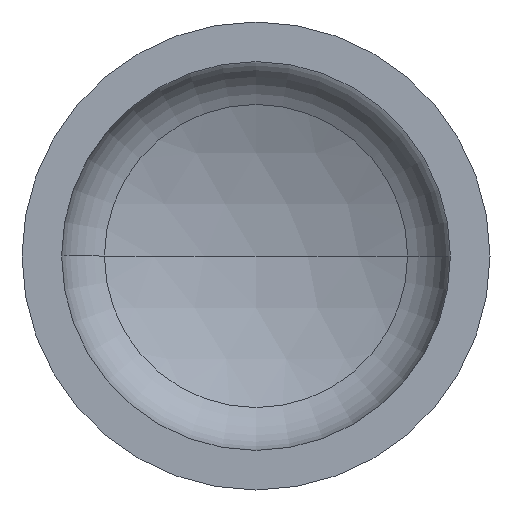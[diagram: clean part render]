
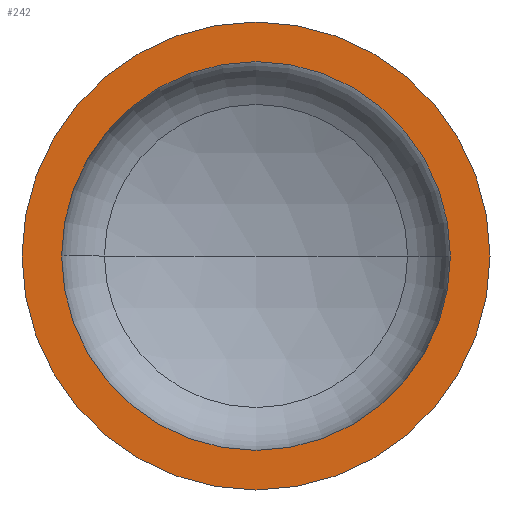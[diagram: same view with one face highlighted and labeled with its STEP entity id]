
A CAD part, front view. The second image highlights one B-rep face of the part: STEP entity #242.
In plain terms, the highlighted planar face has unit normal (0, -1, 0).
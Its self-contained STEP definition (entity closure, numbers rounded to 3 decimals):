
#6 = AXIS2_PLACEMENT_3D ( 'NONE', #260, #372, #375 ) ;
#13 = DIRECTION ( 'NONE',  ( -1., 0., 0. ) ) ;
#17 = AXIS2_PLACEMENT_3D ( 'NONE', #152, #34, #13 ) ;
#34 = DIRECTION ( 'NONE',  ( 0., 1., 0. ) ) ;
#51 = AXIS2_PLACEMENT_3D ( 'NONE', #347, #344, #342 ) ;
#53 = VERTEX_POINT ( 'NONE', #256 ) ;
#55 = AXIS2_PLACEMENT_3D ( 'NONE', #188, #190, #337 ) ;
#60 = AXIS2_PLACEMENT_3D ( 'NONE', #225, #224, #235 ) ;
#61 = ORIENTED_EDGE ( 'NONE', *, *, #341, .F. ) ;
#63 = EDGE_CURVE ( 'NONE', #128, #53, #290, .T. ) ;
#74 = EDGE_CURVE ( 'NONE', #53, #128, #410, .T. ) ;
#76 = EDGE_CURVE ( 'NONE', #124, #237, #132, .T. ) ;
#85 = EDGE_LOOP ( 'NONE', ( #133, #61 ) ) ;
#99 = FACE_BOUND ( 'NONE', #85, .T. ) ;
#124 = VERTEX_POINT ( 'NONE', #199 ) ;
#127 = EDGE_LOOP ( 'NONE', ( #212, #147 ) ) ;
#128 = VERTEX_POINT ( 'NONE', #176 ) ;
#132 = CIRCLE ( 'NONE', #51, 540. ) ;
#133 = ORIENTED_EDGE ( 'NONE', *, *, #76, .F. ) ;
#147 = ORIENTED_EDGE ( 'NONE', *, *, #74, .T. ) ;
#152 = CARTESIAN_POINT ( 'NONE',  ( -650., 0., 0. ) ) ;
#156 = PLANE ( 'NONE',  #17 ) ;
#176 = CARTESIAN_POINT ( 'NONE',  ( 650., 0., 0. ) ) ;
#188 = CARTESIAN_POINT ( 'NONE',  ( 0., 0., 0. ) ) ;
#190 = DIRECTION ( 'NONE',  ( 0., -1., 0. ) ) ;
#199 = CARTESIAN_POINT ( 'NONE',  ( 540., 0., 0. ) ) ;
#212 = ORIENTED_EDGE ( 'NONE', *, *, #63, .T. ) ;
#224 = DIRECTION ( 'NONE',  ( 0., -1., 0. ) ) ;
#225 = CARTESIAN_POINT ( 'NONE',  ( 0., 0., 0. ) ) ;
#235 = DIRECTION ( 'NONE',  ( 1., 0., 0. ) ) ;
#237 = VERTEX_POINT ( 'NONE', #245 ) ;
#242 = ADVANCED_FACE ( 'NONE', ( #99, #386 ), #156, .F. ) ;
#245 = CARTESIAN_POINT ( 'NONE',  ( -540., 0., 0. ) ) ;
#256 = CARTESIAN_POINT ( 'NONE',  ( -650., 0., 0. ) ) ;
#260 = CARTESIAN_POINT ( 'NONE',  ( 0., 0., 0. ) ) ;
#290 = CIRCLE ( 'NONE', #60, 650. ) ;
#337 = DIRECTION ( 'NONE',  ( 1., 0., 0. ) ) ;
#341 = EDGE_CURVE ( 'NONE', #237, #124, #368, .T. ) ;
#342 = DIRECTION ( 'NONE',  ( 1., 0., 0. ) ) ;
#344 = DIRECTION ( 'NONE',  ( 0., -1., 0. ) ) ;
#347 = CARTESIAN_POINT ( 'NONE',  ( 0., 0., 0. ) ) ;
#368 = CIRCLE ( 'NONE', #6, 540. ) ;
#372 = DIRECTION ( 'NONE',  ( 0., -1., 0. ) ) ;
#375 = DIRECTION ( 'NONE',  ( 1., 0., 0. ) ) ;
#386 = FACE_OUTER_BOUND ( 'NONE', #127, .T. ) ;
#410 = CIRCLE ( 'NONE', #55, 650. ) ;
